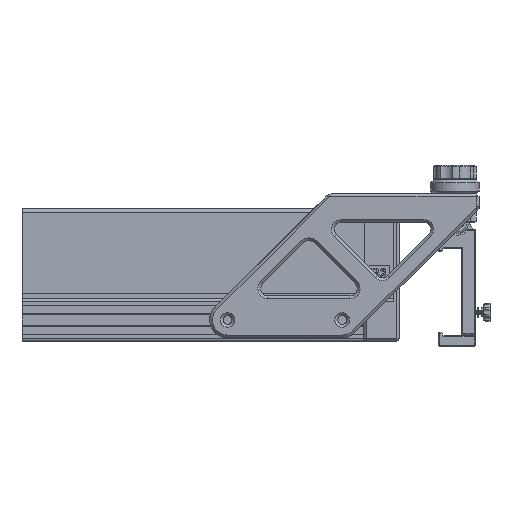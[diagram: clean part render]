
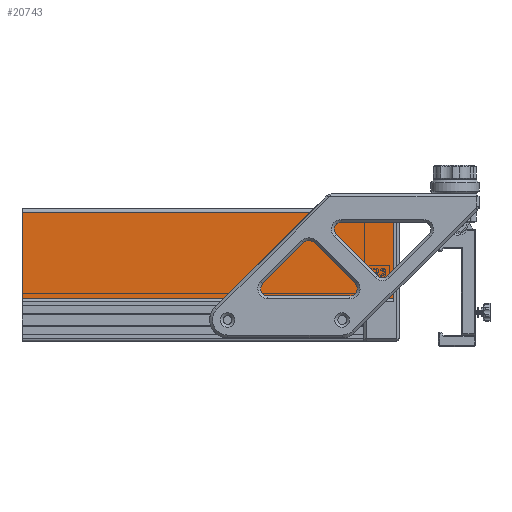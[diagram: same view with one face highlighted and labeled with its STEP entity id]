
A CAD part, left-side view. The second image highlights one B-rep face of the part: STEP entity #20743.
In plain terms, the highlighted planar face has unit normal (-1, 0, 0).
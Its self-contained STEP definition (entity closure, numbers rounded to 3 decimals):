
#660=PLANE('',#22421);
#2557=FACE_OUTER_BOUND('',#3798,.T.);
#3798=EDGE_LOOP('',(#18503,#18504,#18505,#18506));
#6114=LINE('',#59582,#7820);
#6115=LINE('',#59585,#7821);
#6116=LINE('',#59587,#7822);
#6117=LINE('',#59588,#7823);
#7820=VECTOR('',#26998,10.);
#7821=VECTOR('',#27001,10.);
#7822=VECTOR('',#27002,10.);
#7823=VECTOR('',#27003,10.);
#9852=VERTEX_POINT('',#59578);
#9853=VERTEX_POINT('',#59580);
#9854=VERTEX_POINT('',#59584);
#9855=VERTEX_POINT('',#59586);
#12763=EDGE_CURVE('',#9852,#9853,#6114,.T.);
#12764=EDGE_CURVE('',#9854,#9852,#6115,.T.);
#12765=EDGE_CURVE('',#9855,#9853,#6116,.T.);
#12766=EDGE_CURVE('',#9854,#9855,#6117,.T.);
#18503=ORIENTED_EDGE('',*,*,#12764,.T.);
#18504=ORIENTED_EDGE('',*,*,#12763,.T.);
#18505=ORIENTED_EDGE('',*,*,#12765,.F.);
#18506=ORIENTED_EDGE('',*,*,#12766,.F.);
#20743=ADVANCED_FACE('',(#2557),#660,.T.);
#22421=AXIS2_PLACEMENT_3D('',#59583,#26999,#27000);
#26998=DIRECTION('',(0.,1.,0.));
#26999=DIRECTION('center_axis',(-1.,0.,0.));
#27000=DIRECTION('ref_axis',(0.,0.,1.));
#27001=DIRECTION('',(0.,0.,1.));
#27002=DIRECTION('',(0.,0.,1.));
#27003=DIRECTION('',(0.,1.,0.));
#59578=CARTESIAN_POINT('',(107.,141.875,68.875));
#59580=CARTESIAN_POINT('',(107.,401.275,68.875));
#59582=CARTESIAN_POINT('',(107.,141.875,68.875));
#59583=CARTESIAN_POINT('Origin',(107.,141.875,8.625));
#59584=CARTESIAN_POINT('',(107.,141.875,8.625));
#59585=CARTESIAN_POINT('',(107.,141.875,6.625));
#59586=CARTESIAN_POINT('',(107.,401.275,8.625));
#59587=CARTESIAN_POINT('',(107.,401.275,6.625));
#59588=CARTESIAN_POINT('',(107.,141.875,8.625));
